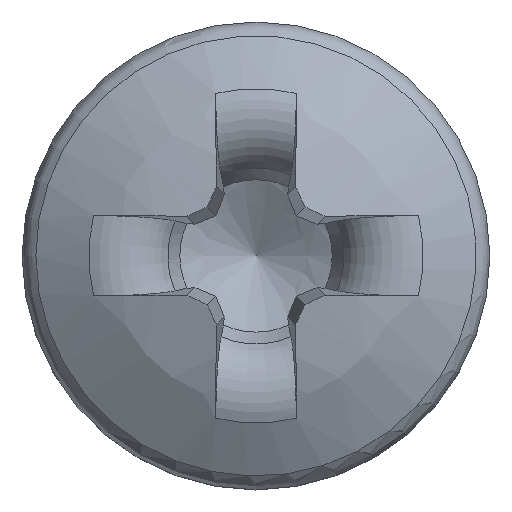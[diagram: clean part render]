
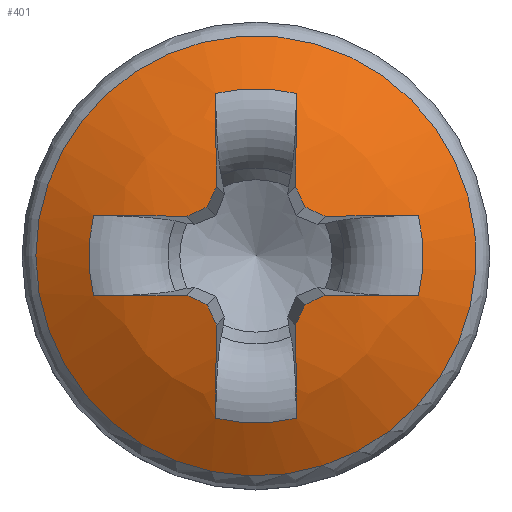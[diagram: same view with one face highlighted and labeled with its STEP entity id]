
A CAD part, top view. The second image highlights one B-rep face of the part: STEP entity #401.
In plain terms, the highlighted spherical face has radius 3.291 mm.
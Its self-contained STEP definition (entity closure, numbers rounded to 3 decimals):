
#381=SPHERICAL_SURFACE('',#2320,3.291);
#382=FACE_BOUND('',#675,.T.);
#383=FACE_BOUND('',#676,.T.);
#401=ADVANCED_FACE('',(#382,#383),#381,.T.);
#675=EDGE_LOOP('',(#869));
#676=EDGE_LOOP('',(#870,#871,#872,#873,#874,#875,#876,#877,#878,#879,#880,
#881,#882,#883,#884,#885,#886,#887,#888,#889));
#822=CIRCLE('',#2299,1.835);
#823=CIRCLE('',#2300,3.291);
#824=CIRCLE('',#2301,1.394);
#825=CIRCLE('',#2302,3.291);
#826=CIRCLE('',#2303,3.288);
#827=CIRCLE('',#2304,3.288);
#828=CIRCLE('',#2305,3.291);
#829=CIRCLE('',#2306,1.394);
#830=CIRCLE('',#2307,3.291);
#831=CIRCLE('',#2308,3.288);
#832=CIRCLE('',#2309,3.288);
#833=CIRCLE('',#2310,3.291);
#834=CIRCLE('',#2311,1.394);
#835=CIRCLE('',#2312,3.291);
#836=CIRCLE('',#2313,3.288);
#837=CIRCLE('',#2314,3.288);
#838=CIRCLE('',#2315,3.291);
#839=CIRCLE('',#2316,1.394);
#840=CIRCLE('',#2317,3.291);
#841=CIRCLE('',#2318,3.288);
#842=CIRCLE('',#2319,3.288);
#869=ORIENTED_EDGE('',*,*,#1768,.T.);
#870=ORIENTED_EDGE('',*,*,#1769,.F.);
#871=ORIENTED_EDGE('',*,*,#1770,.T.);
#872=ORIENTED_EDGE('',*,*,#1771,.F.);
#873=ORIENTED_EDGE('',*,*,#1772,.F.);
#874=ORIENTED_EDGE('',*,*,#1773,.F.);
#875=ORIENTED_EDGE('',*,*,#1774,.F.);
#876=ORIENTED_EDGE('',*,*,#1775,.T.);
#877=ORIENTED_EDGE('',*,*,#1776,.F.);
#878=ORIENTED_EDGE('',*,*,#1777,.F.);
#879=ORIENTED_EDGE('',*,*,#1778,.F.);
#880=ORIENTED_EDGE('',*,*,#1779,.F.);
#881=ORIENTED_EDGE('',*,*,#1780,.T.);
#882=ORIENTED_EDGE('',*,*,#1781,.F.);
#883=ORIENTED_EDGE('',*,*,#1782,.F.);
#884=ORIENTED_EDGE('',*,*,#1783,.F.);
#885=ORIENTED_EDGE('',*,*,#1784,.F.);
#886=ORIENTED_EDGE('',*,*,#1785,.T.);
#887=ORIENTED_EDGE('',*,*,#1786,.F.);
#888=ORIENTED_EDGE('',*,*,#1787,.F.);
#889=ORIENTED_EDGE('',*,*,#1788,.F.);
#1553=VERTEX_POINT('',#2882);
#1554=VERTEX_POINT('',#2884);
#1555=VERTEX_POINT('',#2885);
#1556=VERTEX_POINT('',#2887);
#1557=VERTEX_POINT('',#2889);
#1558=VERTEX_POINT('',#2891);
#1559=VERTEX_POINT('',#2893);
#1560=VERTEX_POINT('',#2895);
#1561=VERTEX_POINT('',#2897);
#1562=VERTEX_POINT('',#2899);
#1563=VERTEX_POINT('',#2901);
#1564=VERTEX_POINT('',#2903);
#1565=VERTEX_POINT('',#2905);
#1566=VERTEX_POINT('',#2907);
#1567=VERTEX_POINT('',#2909);
#1568=VERTEX_POINT('',#2911);
#1569=VERTEX_POINT('',#2913);
#1570=VERTEX_POINT('',#2915);
#1571=VERTEX_POINT('',#2917);
#1572=VERTEX_POINT('',#2919);
#1573=VERTEX_POINT('',#2921);
#1768=EDGE_CURVE('',#1553,#1553,#822,.T.);
#1769=EDGE_CURVE('',#1554,#1555,#823,.T.);
#1770=EDGE_CURVE('',#1554,#1556,#824,.T.);
#1771=EDGE_CURVE('',#1557,#1556,#825,.T.);
#1772=EDGE_CURVE('',#1558,#1557,#826,.T.);
#1773=EDGE_CURVE('',#1559,#1558,#827,.T.);
#1774=EDGE_CURVE('',#1560,#1559,#828,.T.);
#1775=EDGE_CURVE('',#1560,#1561,#829,.T.);
#1776=EDGE_CURVE('',#1562,#1561,#830,.T.);
#1777=EDGE_CURVE('',#1563,#1562,#831,.T.);
#1778=EDGE_CURVE('',#1564,#1563,#832,.T.);
#1779=EDGE_CURVE('',#1565,#1564,#833,.T.);
#1780=EDGE_CURVE('',#1565,#1566,#834,.T.);
#1781=EDGE_CURVE('',#1567,#1566,#835,.T.);
#1782=EDGE_CURVE('',#1568,#1567,#836,.T.);
#1783=EDGE_CURVE('',#1569,#1568,#837,.T.);
#1784=EDGE_CURVE('',#1570,#1569,#838,.T.);
#1785=EDGE_CURVE('',#1570,#1571,#839,.T.);
#1786=EDGE_CURVE('',#1572,#1571,#840,.T.);
#1787=EDGE_CURVE('',#1573,#1572,#841,.T.);
#1788=EDGE_CURVE('',#1555,#1573,#842,.T.);
#2299=AXIS2_PLACEMENT_3D('',#2881,#2381,#2382);
#2300=AXIS2_PLACEMENT_3D('',#2883,#2383,#2384);
#2301=AXIS2_PLACEMENT_3D('',#2886,#2385,#2386);
#2302=AXIS2_PLACEMENT_3D('',#2888,#2387,#2388);
#2303=AXIS2_PLACEMENT_3D('',#2890,#2389,#2390);
#2304=AXIS2_PLACEMENT_3D('',#2892,#2391,#2392);
#2305=AXIS2_PLACEMENT_3D('',#2894,#2393,#2394);
#2306=AXIS2_PLACEMENT_3D('',#2896,#2395,#2396);
#2307=AXIS2_PLACEMENT_3D('',#2898,#2397,#2398);
#2308=AXIS2_PLACEMENT_3D('',#2900,#2399,#2400);
#2309=AXIS2_PLACEMENT_3D('',#2902,#2401,#2402);
#2310=AXIS2_PLACEMENT_3D('',#2904,#2403,#2404);
#2311=AXIS2_PLACEMENT_3D('',#2906,#2405,#2406);
#2312=AXIS2_PLACEMENT_3D('',#2908,#2407,#2408);
#2313=AXIS2_PLACEMENT_3D('',#2910,#2409,#2410);
#2314=AXIS2_PLACEMENT_3D('',#2912,#2411,#2412);
#2315=AXIS2_PLACEMENT_3D('',#2914,#2413,#2414);
#2316=AXIS2_PLACEMENT_3D('',#2916,#2415,#2416);
#2317=AXIS2_PLACEMENT_3D('',#2918,#2417,#2418);
#2318=AXIS2_PLACEMENT_3D('',#2920,#2419,#2420);
#2319=AXIS2_PLACEMENT_3D('',#2922,#2421,#2422);
#2320=AXIS2_PLACEMENT_3D('',#2923,#2423,#2424);
#2381=DIRECTION('',(0.,0.,1.));
#2382=DIRECTION('',(-1.,0.,0.));
#2383=DIRECTION('',(-0.996,-0.035,0.087));
#2384=DIRECTION('',(0.087,0.,0.996));
#2385=DIRECTION('',(0.,0.,-1.));
#2386=DIRECTION('',(-1.,0.,0.));
#2387=DIRECTION('',(0.996,-0.035,0.087));
#2388=DIRECTION('',(0.087,0.,-0.996));
#2389=DIRECTION('',(0.907,0.404,0.122));
#2390=DIRECTION('',(-0.407,0.914,0.));
#2391=DIRECTION('',(0.404,0.907,0.122));
#2392=DIRECTION('',(-0.914,0.407,0.));
#2393=DIRECTION('',(-0.035,0.996,0.087));
#2394=DIRECTION('',(0.,-0.087,0.996));
#2395=DIRECTION('',(0.,0.,-1.));
#2396=DIRECTION('',(-1.,0.,0.));
#2397=DIRECTION('',(-0.035,-0.996,0.087));
#2398=DIRECTION('',(0.,-0.087,-0.996));
#2399=DIRECTION('',(0.404,-0.907,0.122));
#2400=DIRECTION('',(0.914,0.407,0.));
#2401=DIRECTION('',(0.907,-0.404,0.122));
#2402=DIRECTION('',(0.407,0.914,0.));
#2403=DIRECTION('',(0.996,0.035,0.087));
#2404=DIRECTION('',(0.087,0.,-0.996));
#2405=DIRECTION('',(0.,0.,-1.));
#2406=DIRECTION('',(-1.,0.,0.));
#2407=DIRECTION('',(-0.996,0.035,0.087));
#2408=DIRECTION('',(0.087,0.,0.996));
#2409=DIRECTION('',(-0.907,-0.404,0.122));
#2410=DIRECTION('',(0.407,-0.914,0.));
#2411=DIRECTION('',(-0.404,-0.907,0.122));
#2412=DIRECTION('',(0.914,-0.407,0.));
#2413=DIRECTION('',(0.035,-0.996,0.087));
#2414=DIRECTION('',(0.,-0.087,-0.996));
#2415=DIRECTION('',(0.,0.,-1.));
#2416=DIRECTION('',(-1.,0.,0.));
#2417=DIRECTION('',(0.035,0.996,0.087));
#2418=DIRECTION('',(0.,-0.087,0.996));
#2419=DIRECTION('',(-0.404,0.907,0.122));
#2420=DIRECTION('',(-0.914,-0.407,0.));
#2421=DIRECTION('',(-0.907,0.404,0.122));
#2422=DIRECTION('',(-0.407,-0.914,0.));
#2423=DIRECTION('',(0.,0.,1.));
#2424=DIRECTION('',(0.,1.,0.));
#2881=CARTESIAN_POINT('',(0.,0.,1.041));
#2882=CARTESIAN_POINT('',(-1.835,0.,1.041));
#2883=CARTESIAN_POINT('',(0.026,0.001,-1.693));
#2884=CARTESIAN_POINT('',(0.335,-1.353,1.29));
#2885=CARTESIAN_POINT('',(0.329,-0.577,1.532));
#2886=CARTESIAN_POINT('',(0.,0.,1.29));
#2887=CARTESIAN_POINT('',(-0.335,-1.353,1.29));
#2888=CARTESIAN_POINT('',(-0.026,0.001,-1.693));
#2889=CARTESIAN_POINT('',(-0.329,-0.577,1.532));
#2890=CARTESIAN_POINT('',(-0.126,-0.056,-1.708));
#2891=CARTESIAN_POINT('',(-0.407,-0.407,1.549));
#2892=CARTESIAN_POINT('',(-0.056,-0.126,-1.708));
#2893=CARTESIAN_POINT('',(-0.577,-0.329,1.532));
#2894=CARTESIAN_POINT('',(0.001,-0.026,-1.693));
#2895=CARTESIAN_POINT('',(-1.353,-0.335,1.29));
#2896=CARTESIAN_POINT('',(0.,0.,1.29));
#2897=CARTESIAN_POINT('',(-1.353,0.335,1.29));
#2898=CARTESIAN_POINT('',(0.001,0.026,-1.693));
#2899=CARTESIAN_POINT('',(-0.577,0.329,1.532));
#2900=CARTESIAN_POINT('',(-0.056,0.126,-1.708));
#2901=CARTESIAN_POINT('',(-0.407,0.407,1.549));
#2902=CARTESIAN_POINT('',(-0.126,0.056,-1.708));
#2903=CARTESIAN_POINT('',(-0.329,0.577,1.532));
#2904=CARTESIAN_POINT('',(-0.026,-0.001,-1.693));
#2905=CARTESIAN_POINT('',(-0.335,1.353,1.29));
#2906=CARTESIAN_POINT('',(0.,0.,1.29));
#2907=CARTESIAN_POINT('',(0.335,1.353,1.29));
#2908=CARTESIAN_POINT('',(0.026,-0.001,-1.693));
#2909=CARTESIAN_POINT('',(0.329,0.577,1.532));
#2910=CARTESIAN_POINT('',(0.126,0.056,-1.708));
#2911=CARTESIAN_POINT('',(0.407,0.407,1.549));
#2912=CARTESIAN_POINT('',(0.056,0.126,-1.708));
#2913=CARTESIAN_POINT('',(0.577,0.329,1.532));
#2914=CARTESIAN_POINT('',(-0.001,0.026,-1.693));
#2915=CARTESIAN_POINT('',(1.353,0.335,1.29));
#2916=CARTESIAN_POINT('',(0.,0.,1.29));
#2917=CARTESIAN_POINT('',(1.353,-0.335,1.29));
#2918=CARTESIAN_POINT('',(-0.001,-0.026,-1.693));
#2919=CARTESIAN_POINT('',(0.577,-0.329,1.532));
#2920=CARTESIAN_POINT('',(0.056,-0.126,-1.708));
#2921=CARTESIAN_POINT('',(0.407,-0.407,1.549));
#2922=CARTESIAN_POINT('',(0.126,-0.056,-1.708));
#2923=CARTESIAN_POINT('',(0.,0.,-1.691));
